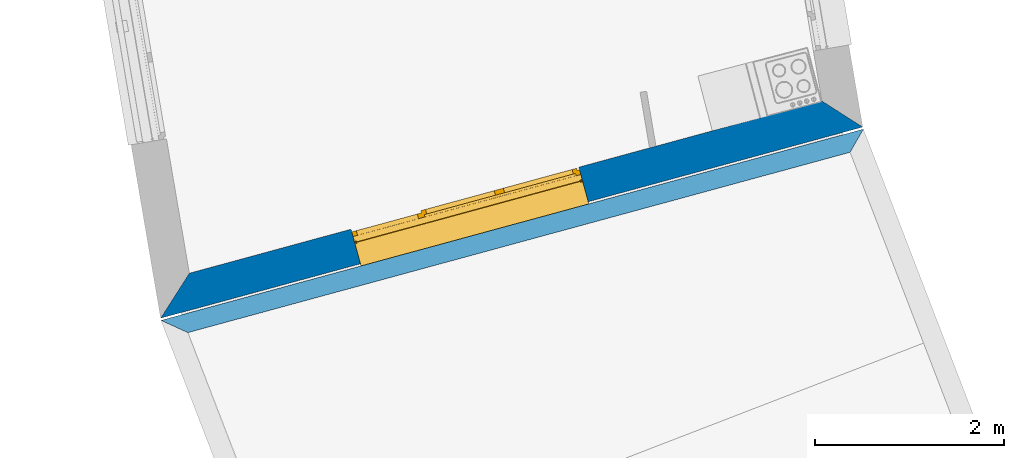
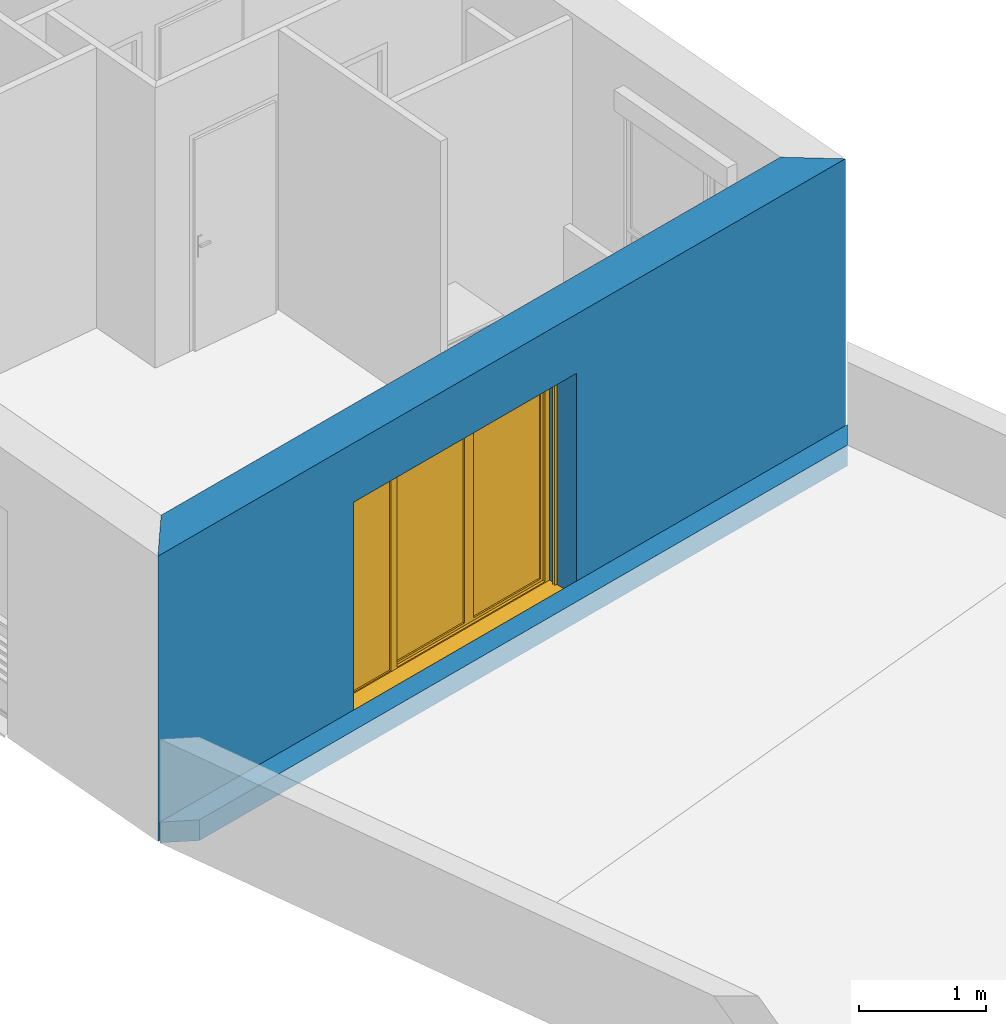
# One storey, part 70 of 121: 2 walls, 1 window, 1 opening.
"""IFC2X3 building model written with IfcOpenShell, lengths in metres."""

from ifc_helpers import new_model, entity, si_unit, converted_unit, derived_unit, money_unit, direction, frame, origin_with_axes, place, context, subcontext, project, spatial, polyline, outline, extrude, open_shell, faceted_brep, surface_model, source, transform, mapped, material, layer, layer_set, layer_usage, type_object, element, fill, save


model = new_model("IFC2X3")

# Units and contexts
model_context = context("Model", 3, precision=1e-05, world=origin_with_axes(), true_north=direction((0.0, 1.0)))
body_context = subcontext(model_context, "Body", "Model", "MODEL_VIEW")
ifc_project = project(units=[si_unit("LENGTHUNIT", "METRE"), si_unit("AREAUNIT", "SQUARE_METRE"), si_unit("VOLUMEUNIT", "CUBIC_METRE"), converted_unit("PLANEANGLEUNIT", "DEGREE", entity("IfcPlaneAngleMeasure", 0.0174532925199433), si_unit("PLANEANGLEUNIT", "RADIAN"), dimensions=[0, 0, 0, 0, 0, 0, 0]), money_unit("CHF"), converted_unit("TIMEUNIT", "Year", entity("IfcTimeMeasure", 31557600.0), si_unit("TIMEUNIT", "SECOND"), dimensions=[0, 0, 1, 0, 0, 0, 0]), si_unit("MASSUNIT", "GRAM", prefix="KILO"), si_unit("THERMODYNAMICTEMPERATUREUNIT", "DEGREE_CELSIUS"), si_unit("LUMINOUSINTENSITYUNIT", "LUMEN"), si_unit("ENERGYUNIT", "JOULE", prefix="MEGA"), derived_unit("THERMALCONDUCTANCEUNIT", [(si_unit("POWERUNIT", "WATT"), 1), (si_unit("LENGTHUNIT", "METRE"), -1), (si_unit("THERMODYNAMICTEMPERATUREUNIT", "KELVIN"), -1)]), derived_unit("SPECIFICHEATCAPACITYUNIT", [(si_unit("ENERGYUNIT", "JOULE"), 1), (si_unit("MASSUNIT", "GRAM", prefix="KILO"), -1), (si_unit("THERMODYNAMICTEMPERATUREUNIT", "KELVIN"), -1)]), derived_unit("MASSDENSITYUNIT", [(si_unit("MASSUNIT", "GRAM", prefix="KILO"), 1), (si_unit("VOLUMEUNIT", "CUBIC_METRE"), -1)])], contexts=[model_context])

# Site, building, storey
site_placement = place(None, origin_with_axes())
site = spatial("IfcSite", under=ifc_project, at=site_placement, Name="Site", CompositionType="ELEMENT")
building_placement = place(site_placement, origin_with_axes())
building = spatial("IfcBuilding", under=site, at=building_placement, Name="Bâtiment", CompositionType="ELEMENT")
storey_placement = place(building_placement, frame((0.0, 0.0, 2.75), z_axis=(0.0, 0.0, 1.0), x_axis=(1.0, 0.0, 0.0)))
storey = spatial("IfcBuildingStorey", under=building, at=storey_placement, Name="Etage 1", CompositionType="ELEMENT", Elevation=2.75)

# Wall, opening, window
ifc_material_1 = material(Name="Parpaing 312445824")
ifc_layer_1 = layer(ifc_material_1, 0.22, ventilated="UNKNOWN")
ifc_material_2 = material(Name="Isolant styromousse 301821074")
ifc_layer_2 = layer(ifc_material_2, 0.16, ventilated="UNKNOWN")
ifc_layer_set_1 = layer_set([ifc_layer_1, ifc_layer_2], Name="isol int 22+16 0836643197")
ifc_layer_usage_1 = layer_usage(ifc_layer_set_1, "AXIS2", "NEGATIVE", 0.0)
wall_type_1 = type_object("IfcWallType", Name="isol int 22+16 0836643197 380", PredefinedType="NOTDEFINED")
wall_1_placement = place(storey_placement, frame((9589.408254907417, -1033.5965492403, 57.7), z_axis=(0.0, 0.0, 1.0), x_axis=(-0.9648682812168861, -0.2627340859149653, 0.0)))
wall_1 = element("IfcWallStandardCase", 1, at=wall_1_placement, inside=storey, type_object=wall_type_1, material=ifc_layer_usage_1, Name="Mur-113", context=body_context, shape_type="SweptSolid", body=[
    extrude(outline(polyline([(0.3447130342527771, -0.3799999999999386), (7.287469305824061, -0.3799999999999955), (7.706368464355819, 0.0), (0.0, 0.0), (0.3447130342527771, -0.3799999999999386)])), origin_with_axes(), (0.0, 0.0, 1.0), 2.75),
])
opening_placement = place(wall_1_placement, frame((4.262756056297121, 0.0, 0.0), z_axis=(0.0, 0.0, 1.0), x_axis=(1.0, 0.0, 0.0)))
opening = element("IfcOpeningElement", 2, at=opening_placement, cuts=wall_1, Name="Fen-045", context=body_context, shape_type="Brep", body=[
    faceted_brep([(-1.25, -0.2999999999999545, 2.18), (-1.25, -0.2199999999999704, 2.18), (-1.25, 1.954593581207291, 2.18), (-1.25, 1.954593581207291, 0.0), (-1.25, -0.2999999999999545, 0.0), (-1.249999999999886, -0.4800000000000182, 2.18), (-1.249999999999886, -0.4800000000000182, 2.380000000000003), (-1.25, -0.2199999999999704, 2.380000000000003), (1.25, -0.2199999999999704, 2.18), (1.250000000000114, 1.954593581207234, 2.18), (1.250000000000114, 1.954593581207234, 0.0), (1.249999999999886, -0.2999999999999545, 0.0), (1.25, -2.334593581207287, 0.0), (-1.25, -2.334593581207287, 0.0), (-1.25, -2.334593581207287, 2.18), (1.250000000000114, -0.4799999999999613, 2.18), (1.250000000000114, -0.4799999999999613, 2.380000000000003), (1.25, -0.2199999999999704, 2.380000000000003), (1.249999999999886, -0.2999999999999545, 2.18), (1.25, -2.334593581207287, 2.18)], [[[0, 1, 2, 3, 4]], [[1, 0, 5, 6, 7]], [[1, 8, 9, 2]], [[9, 10, 3, 2]], [[4, 3, 10, 11, 12, 13]], [[5, 0, 4, 13, 14]], [[5, 15, 16, 6]], [[16, 17, 7, 6]], [[8, 1, 7, 17]], [[8, 18, 11, 10, 9]], [[18, 15, 19, 12, 11]], [[14, 13, 12, 19]], [[15, 5, 14, 19]], [[18, 8, 17, 16, 15]]]),
])
window_style = type_object("IfcWindowStyle", Name="Fenêtre variable 27", ConstructionType="NOTDEFINED", OperationType="TRIPLE_PANEL_VERTICAL", ParameterTakesPrecedence=False, Sizeable=False)
shared_shape = source(origin_with_axes(), body_context, "Body", "SurfaceModel", [
    surface_model("IfcShellBasedSurfaceModel", [(1.25, -0.05100000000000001, 0.05), (-1.25, -0.05100000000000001, 0.05000000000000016), (-1.25, -0.05100000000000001, 0.04000000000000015), (1.25, -0.05100000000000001, 0.04), (-1.25, -0.3799999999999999, 0.02900000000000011), (1.25, -0.3799999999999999, 0.02899999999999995), (-1.25, -0.3799999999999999, 0.009000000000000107), (1.25, -0.3799999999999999, 0.008999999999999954), (-1.25, -0.3699999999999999, 0.01900000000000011), (1.25, -0.3699999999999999, 0.01899999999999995)], [open_shell([[[0, 1, 2, 3]], [[3, 2, 4, 5]], [[5, 4, 6, 7]], [[7, 6, 8, 9]]])]),
    faceted_brep([(1.25, -0.1300000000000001, 2.38), (1.25, 0.1299999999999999, 2.38), (1.247, 0.1299999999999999, 2.38), (1.247, -0.1300000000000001, 2.38), (1.25, -0.1300000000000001, 2.18), (1.25, 0.1299999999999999, 2.18), (1.247, 0.1299999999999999, 2.18), (1.247, -0.1300000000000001, 2.18)], [[[0, 1, 2, 3]], [[0, 4, 5, 1]], [[1, 5, 6, 2]], [[3, 2, 6, 7]], [[4, 0, 3, 7]], [[5, 4, 7, 6]]]),
    faceted_brep([(-1.247, -0.1299999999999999, 2.38), (-1.247, 0.1300000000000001, 2.38), (-1.25, 0.1300000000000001, 2.38), (-1.25, -0.1299999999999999, 2.38), (-1.247, -0.1299999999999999, 2.18), (-1.247, 0.1300000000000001, 2.18), (-1.25, 0.1300000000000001, 2.18), (-1.25, -0.1299999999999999, 2.18)], [[[0, 1, 2, 3]], [[0, 4, 5, 1]], [[1, 5, 6, 2]], [[3, 2, 6, 7]], [[4, 0, 3, 7]], [[5, 4, 7, 6]]]),
    faceted_brep([(1.247, -0.1300000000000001, 2.18), (1.247, -0.1300000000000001, 2.38), (-1.247, -0.1299999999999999, 2.38), (-1.247, -0.1299999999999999, 2.18), (1.247, -0.1270000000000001, 2.18), (1.247, -0.1270000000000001, 2.377), (1.247, 0.1269999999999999, 2.377), (1.247, 0.1269999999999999, 2.183), (1.247, -0.1080000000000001, 2.183), (1.247, -0.1080000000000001, 2.18), (1.247, 0.1299999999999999, 2.18), (1.247, 0.1299999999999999, 2.38), (-1.247, 0.1300000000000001, 2.38), (-1.247, 0.1300000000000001, 2.18), (-1.247, -0.1079999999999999, 2.18), (-1.247, -0.1079999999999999, 2.183), (-1.247, 0.1270000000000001, 2.183), (-1.247, 0.1270000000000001, 2.377), (-1.247, -0.1269999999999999, 2.377), (-1.247, -0.1269999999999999, 2.18)], [[[0, 1, 2, 3]], [[0, 4, 5, 6, 7, 8, 9, 10, 11, 1]], [[1, 11, 12, 2]], [[3, 2, 12, 13, 14, 15, 16, 17, 18, 19]], [[4, 0, 3, 19]], [[5, 4, 19, 18]], [[6, 5, 18, 17]], [[7, 6, 17, 16]], [[8, 7, 16, 15]], [[9, 8, 15, 14]], [[10, 9, 14, 13]], [[11, 10, 13, 12]]]),
    faceted_brep([(1.244, -0.08075423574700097, 2.265760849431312), (1.244, -0.07705479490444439, 2.251954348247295), (1.244, -0.07101408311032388, 2.239), (1.244, -0.06281564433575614, 2.227291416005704), (1.244, -0.05270858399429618, 2.217184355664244), (1.244, -0.04099999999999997, 2.208985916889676), (1.244, -0.02804565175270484, 2.202945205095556), (1.244, -0.01423915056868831, 2.199245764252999), (1.244, 0.0, 2.198), (1.244, 0.01423915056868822, 2.199245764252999), (1.244, 0.02804565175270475, 2.202945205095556), (1.244, 0.0409999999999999, 2.208985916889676), (1.244, 0.05270858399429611, 2.217184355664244), (1.244, 0.06281564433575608, 2.227291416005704), (1.244, 0.07101408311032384, 2.239), (1.244, 0.07705479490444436, 2.251954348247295), (1.244, 0.08075423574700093, 2.265760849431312), (1.244, 0.08199999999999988, 2.28), (1.244, 0.08075423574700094, 2.294239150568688), (1.244, 0.07705479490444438, 2.308045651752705), (1.244, 0.07101408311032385, 2.321), (1.244, 0.0628156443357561, 2.332708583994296), (1.244, 0.05270858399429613, 2.342815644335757), (1.244, 0.04099999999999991, 2.351014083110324), (1.244, 0.02804565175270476, 2.357054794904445), (1.244, 0.01423915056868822, 2.360754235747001), (1.244, 0.0, 2.362), (1.244, -0.01423915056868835, 2.360754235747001), (1.244, -0.0280456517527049, 2.357054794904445), (1.244, -0.04100000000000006, 2.351014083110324), (1.244, -0.05270858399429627, 2.342815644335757), (1.244, -0.06281564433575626, 2.332708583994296), (1.244, -0.07101408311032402, 2.321), (1.244, -0.07705479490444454, 2.308045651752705), (1.244, -0.08075423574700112, 2.294239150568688), (1.244, -0.08200000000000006, 2.28), (-1.244, -0.08075423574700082, 2.265760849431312), (-1.244, -0.07705479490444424, 2.251954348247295), (-1.244, -0.07101408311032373, 2.239), (-1.244, -0.06281564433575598, 2.227291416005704), (-1.244, -0.05270858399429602, 2.217184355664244), (-1.244, -0.04099999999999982, 2.208985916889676), (-1.244, -0.02804565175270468, 2.202945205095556), (-1.244, -0.01423915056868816, 2.199245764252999), (-1.244, 0.0, 2.198), (-1.244, 0.01423915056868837, 2.199245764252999), (-1.244, 0.02804565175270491, 2.202945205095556), (-1.244, 0.04100000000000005, 2.208985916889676), (-1.244, 0.05270858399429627, 2.217184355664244), (-1.244, 0.06281564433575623, 2.227291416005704), (-1.244, 0.07101408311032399, 2.239), (-1.244, 0.07705479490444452, 2.251954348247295), (-1.244, 0.08075423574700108, 2.265760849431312), (-1.244, 0.08200000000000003, 2.28), (-1.244, 0.0807542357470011, 2.294239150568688), (-1.244, 0.07705479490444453, 2.308045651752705), (-1.244, 0.071014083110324, 2.321), (-1.244, 0.06281564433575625, 2.332708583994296), (-1.244, 0.05270858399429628, 2.342815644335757), (-1.244, 0.04100000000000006, 2.351014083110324), (-1.244, 0.02804565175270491, 2.357054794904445), (-1.244, 0.01423915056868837, 2.360754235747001), (-1.244, 0.0, 2.362), (-1.244, -0.0142391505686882, 2.360754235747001), (-1.244, -0.02804565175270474, 2.357054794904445), (-1.244, -0.0409999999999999, 2.351014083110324), (-1.244, -0.05270858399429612, 2.342815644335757), (-1.244, -0.06281564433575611, 2.332708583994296), (-1.244, -0.07101408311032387, 2.321), (-1.244, -0.07705479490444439, 2.308045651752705), (-1.244, -0.08075423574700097, 2.294239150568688), (-1.244, -0.0819999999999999, 2.28)], [[[0, 1, 2, 3, 4, 5, 6, 7, 8, 9, 10, 11, 12, 13, 14, 15, 16, 17, 18, 19, 20, 21, 22, 23, 24, 25, 26, 27, 28, 29, 30, 31, 32, 33, 34, 35]], [[1, 0, 36, 37]], [[2, 1, 37, 38]], [[3, 2, 38, 39]], [[4, 3, 39, 40]], [[5, 4, 40, 41]], [[6, 5, 41, 42]], [[7, 6, 42, 43]], [[8, 7, 43, 44]], [[9, 8, 44, 45]], [[10, 9, 45, 46]], [[11, 10, 46, 47]], [[12, 11, 47, 48]], [[13, 12, 48, 49]], [[14, 13, 49, 50]], [[15, 14, 50, 51]], [[16, 15, 51, 52]], [[17, 16, 52, 53]], [[18, 17, 53, 54]], [[19, 18, 54, 55]], [[20, 19, 55, 56]], [[21, 20, 56, 57]], [[22, 21, 57, 58]], [[23, 22, 58, 59]], [[24, 23, 59, 60]], [[25, 24, 60, 61]], [[26, 25, 61, 62]], [[27, 26, 62, 63]], [[28, 27, 63, 64]], [[29, 28, 64, 65]], [[30, 29, 65, 66]], [[31, 30, 66, 67]], [[32, 31, 67, 68]], [[33, 32, 68, 69]], [[34, 33, 69, 70]], [[35, 34, 70, 71]], [[0, 35, 71, 36]], [[36, 71, 70, 69, 68, 67, 66, 65, 64, 63, 62, 61, 60, 59, 58, 57, 56, 55, 54, 53, 52, 51, 50, 49, 48, 47, 46, 45, 44, 43, 42, 41, 40, 39, 38, 37]]]),
    faceted_brep([(-1.25, -0.105, 0.03), (-1.25, -0.13, 0.03), (-1.25, -0.1299999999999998, 2.18), (-1.25, -0.1049999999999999, 2.18), (-1.225, -0.105, 0.03), (-1.225, -0.108, 0.03), (-1.247, -0.108, 0.03), (-1.247, -0.127, 0.03), (-1.225, -0.127, 0.03), (-1.225, -0.13, 0.03), (-1.225, -0.1299999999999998, 2.18), (-1.225, -0.1269999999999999, 2.18), (-1.247, -0.1269999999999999, 2.18), (-1.247, -0.1079999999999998, 2.18), (-1.225, -0.1079999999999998, 2.18), (-1.225, -0.1049999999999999, 2.18)], [[[0, 1, 2, 3]], [[0, 4, 5, 6, 7, 8, 9, 1]], [[1, 9, 10, 2]], [[3, 2, 10, 11, 12, 13, 14, 15]], [[4, 0, 3, 15]], [[5, 4, 15, 14]], [[6, 5, 14, 13]], [[7, 6, 13, 12]], [[8, 7, 12, 11]], [[9, 8, 11, 10]]]),
    faceted_brep([(1.25, -0.105, 0.03), (1.25, -0.1049999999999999, 2.18), (1.25, -0.1299999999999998, 2.18), (1.25, -0.13, 0.03), (1.225, -0.105, 0.03), (1.225, -0.1049999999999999, 2.18), (1.225, -0.1079999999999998, 2.18), (1.247, -0.1079999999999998, 2.18), (1.247, -0.1269999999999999, 2.18), (1.225, -0.1269999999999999, 2.18), (1.225, -0.1299999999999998, 2.18), (1.225, -0.13, 0.03), (1.225, -0.127, 0.03), (1.247, -0.127, 0.03), (1.247, -0.108, 0.03), (1.225, -0.108, 0.03)], [[[0, 1, 2, 3]], [[4, 5, 1, 0]], [[1, 5, 6, 7, 8, 9, 10, 2]], [[3, 2, 10, 11]], [[0, 3, 11, 12, 13, 14, 15, 4]], [[15, 6, 5, 4]], [[14, 7, 6, 15]], [[13, 8, 7, 14]], [[12, 9, 8, 13]], [[11, 10, 9, 12]]]),
    surface_model("IfcShellBasedSurfaceModel", [(1.247, -0.115, 2.28), (-1.247, -0.1149999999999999, 2.28), (-1.247, -0.1199999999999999, 2.28), (1.247, -0.1200000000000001, 2.28), (1.247, -0.115, 2.28), (1.247, -0.1200000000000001, 2.28), (-1.247, -0.1199999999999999, 2.28), (-1.247, -0.1149999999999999, 2.28)], [open_shell([[[0, 1, 2, 3]], [[4, 5, 6, 7]]])]),
    faceted_brep([(1.247, -0.115, 2.28), (1.247, -0.1166666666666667, 2.263333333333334), (-1.247, -0.1166666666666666, 2.263333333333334), (-1.247, -0.1149999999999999, 2.28), (1.247, -0.1200000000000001, 2.28), (1.247, -0.1216666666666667, 2.263333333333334), (1.247, -0.1216666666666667, 2.246666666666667), (1.247, -0.1200000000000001, 2.23), (1.247, -0.115, 2.23), (1.247, -0.1166666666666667, 2.246666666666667), (-1.247, -0.1166666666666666, 2.246666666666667), (-1.247, -0.1149999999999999, 2.23), (-1.247, -0.1199999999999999, 2.23), (-1.247, -0.1216666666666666, 2.246666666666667), (-1.247, -0.1216666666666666, 2.263333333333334), (-1.247, -0.1199999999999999, 2.28)], [[[0, 1, 2, 3]], [[0, 4, 5, 6, 7, 8, 9, 1]], [[1, 9, 10, 2]], [[3, 2, 10, 11, 12, 13, 14, 15]], [[4, 0, 3, 15]], [[5, 4, 15, 14]], [[6, 5, 14, 13]], [[7, 6, 13, 12]], [[8, 7, 12, 11]], [[9, 8, 11, 10]]]),
    faceted_brep([(1.247, -0.115, 2.23), (1.247, -0.1166666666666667, 2.213333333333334), (-1.247, -0.1166666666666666, 2.213333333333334), (-1.247, -0.1149999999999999, 2.23), (1.247, -0.1200000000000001, 2.23), (1.247, -0.1216666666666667, 2.213333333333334), (1.247, -0.1216666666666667, 2.196666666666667), (1.247, -0.1200000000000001, 2.180000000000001), (1.247, -0.115, 2.180000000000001), (1.247, -0.1166666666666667, 2.196666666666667), (-1.247, -0.1166666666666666, 2.196666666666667), (-1.247, -0.1149999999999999, 2.180000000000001), (-1.247, -0.1199999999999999, 2.180000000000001), (-1.247, -0.1216666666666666, 2.196666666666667), (-1.247, -0.1216666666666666, 2.213333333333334), (-1.247, -0.1199999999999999, 2.23)], [[[0, 1, 2, 3]], [[0, 4, 5, 6, 7, 8, 9, 1]], [[1, 9, 10, 2]], [[3, 2, 10, 11, 12, 13, 14, 15]], [[4, 0, 3, 15]], [[5, 4, 15, 14]], [[6, 5, 14, 13]], [[7, 6, 13, 12]], [[8, 7, 12, 11]], [[9, 8, 11, 10]]]),
    faceted_brep([(1.225, 0.0, 2.13), (1.225, -0.02500000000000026, 2.13), (1.2, -0.02500000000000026, 2.13), (1.2, -0.05000000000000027, 2.13), (1.25, -0.05000000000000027, 2.13), (1.25, 0.0, 2.13), (1.225, 0.0, 0.05000000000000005), (1.225, -0.02500000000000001, 0.05000000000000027), (1.2, -0.02500000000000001, 0.05000000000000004), (1.2, -0.05000000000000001, 0.05000000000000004), (1.25, -0.05000000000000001, 0.05000000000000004), (1.25, 0.0, 0.05000000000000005)], [[[0, 1, 2, 3, 4, 5]], [[1, 0, 6, 7]], [[8, 2, 1, 7]], [[2, 8, 9, 3]], [[4, 3, 9, 10]], [[5, 4, 10, 11]], [[6, 0, 5, 11]], [[7, 6, 11, 10, 9, 8]]]),
    faceted_brep([(-0.4600000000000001, -0.02500000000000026, 2.13), (-0.4850000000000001, -0.02500000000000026, 2.13), (-0.4850000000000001, 0.0, 2.13), (-0.5300000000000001, 0.0, 2.13), (-0.5300000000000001, -0.05000000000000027, 2.13), (-0.4600000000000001, -0.05000000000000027, 2.13), (-0.4600000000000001, -0.02500000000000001, 0.05000000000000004), (-0.4850000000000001, -0.02500000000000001, 0.05000000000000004), (-0.4850000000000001, 0.0, 0.05000000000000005), (-0.5300000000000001, 0.0, 0.05000000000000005), (-0.5300000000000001, -0.05000000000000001, 0.05000000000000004), (-0.4600000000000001, -0.05000000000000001, 0.05000000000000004)], [[[0, 1, 2, 3, 4, 5]], [[1, 0, 6, 7]], [[8, 2, 1, 7]], [[2, 8, 9, 3]], [[9, 10, 4, 3]], [[10, 11, 5, 4]], [[6, 0, 5, 11]], [[7, 6, 11, 10, 9, 8]]]),
    faceted_brep([(-0.4600000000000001, -0.02500000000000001, 0.05000000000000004), (-0.4850000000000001, -0.02500000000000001, 0.05000000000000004), (-0.4850000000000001, 0.0, 0.05000000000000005), (-0.5300000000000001, 0.0, 0.05000000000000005), (-0.5300000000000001, -0.05000000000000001, 0.05000000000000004), (-0.4600000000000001, -0.05000000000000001, 0.05000000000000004), (1.2, -0.02500000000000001, 0.05000000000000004), (1.225, -0.02500000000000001, 0.05000000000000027), (1.225, -0.025, 0.02499999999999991), (-0.4850000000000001, -0.025, 0.02499999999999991), (-0.4850000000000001, 0.0, 0.02499999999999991), (1.225, 0.0, 0.02499999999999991), (1.225, 0.0, 0.05000000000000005), (1.25, 0.0, 0.05000000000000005), (1.25, 0.0, 0.0), (-1.25, 0.0, 0.0), (-1.25, 0.0, 0.05000000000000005), (-1.2, 0.0, 0.05000000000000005), (-1.2, -0.05000000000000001, 0.05000000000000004), (1.25, -0.05000000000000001, 0.05000000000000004), (1.2, -0.05000000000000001, 0.05000000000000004), (-1.25, -0.05000000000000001, 0.05000000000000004), (-1.25, -0.05, 0.0), (1.25, -0.05, 0.0)], [[[0, 1, 2, 3, 4, 5]], [[1, 0, 6, 7, 8, 9]], [[10, 2, 1, 9]], [[11, 12, 13, 14, 15, 16, 17, 3, 2, 10]], [[17, 18, 4, 3]], [[19, 20, 5, 4, 18, 21, 22, 23]], [[6, 0, 5, 20]], [[7, 6, 20, 19, 13, 12]], [[7, 12, 11, 8]], [[11, 10, 9, 8]], [[13, 19, 23, 14]], [[14, 23, 22, 15]], [[15, 22, 21, 16]], [[16, 21, 18, 17]]]),
    faceted_brep([(1.225, 0.0, 2.13), (1.225, 0.0, 2.155), (-0.4850000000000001, 0.0, 2.155), (-0.4850000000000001, 0.0, 2.13), (-0.5300000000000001, 0.0, 2.13), (-1.2, 0.0, 2.13), (-1.25, 0.0, 2.13), (-1.25, 0.0, 2.18), (1.25, 0.0, 2.18), (1.25, 0.0, 2.13), (1.225, -0.02500000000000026, 2.13), (1.225, -0.02500000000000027, 2.155), (-0.4850000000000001, -0.02500000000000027, 2.155), (-0.4850000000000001, -0.02500000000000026, 2.13), (-0.4600000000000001, -0.02500000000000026, 2.13), (-0.4600000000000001, -0.05000000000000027, 2.13), (-0.5300000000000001, -0.05000000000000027, 2.13), (-1.2, -0.05000000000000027, 2.13), (-1.25, -0.05000000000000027, 2.13), (-1.25, -0.05000000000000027, 2.18), (1.25, -0.05000000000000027, 2.18), (1.25, -0.05000000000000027, 2.13), (1.2, -0.05000000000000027, 2.13), (1.2, -0.02500000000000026, 2.13)], [[[0, 1, 2, 3, 4, 5, 6, 7, 8, 9]], [[1, 0, 10, 11]], [[2, 1, 11, 12]], [[3, 2, 12, 13]], [[13, 14, 15, 16, 4, 3]], [[4, 16, 17, 5]], [[5, 17, 18, 6]], [[6, 18, 19, 7]], [[7, 19, 20, 8]], [[8, 20, 21, 9]], [[10, 0, 9, 21, 22, 23]], [[14, 13, 12, 11, 10, 23]], [[14, 23, 22, 15]], [[16, 15, 22, 21, 20, 19, 18, 17]]]),
    faceted_brep([(-1.2, -0.05000000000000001, 0.05), (-1.25, -0.05000000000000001, 0.05), (-1.25, 0.0, 0.05000000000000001), (-1.2, 0.0, 0.05000000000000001), (-1.2, -0.05000000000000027, 2.13), (-1.25, -0.05000000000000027, 2.13), (-1.25, 0.0, 2.13), (-1.2, 0.0, 2.13)], [[[0, 1, 2, 3]], [[0, 4, 5, 1]], [[1, 5, 6, 2]], [[3, 2, 6, 7]], [[4, 0, 3, 7]], [[5, 4, 7, 6]]]),
    faceted_brep([(0.3199999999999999, -0.02500000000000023, 2.105), (0.3699999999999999, -0.02500000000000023, 2.105), (0.3699999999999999, 0.02499999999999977, 2.105), (0.3199999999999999, 0.02499999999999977, 2.105), (0.3199999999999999, -0.02499999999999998, 0.07500000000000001), (0.3699999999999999, -0.02499999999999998, 0.07500000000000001), (0.3699999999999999, 0.02500000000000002, 0.07500000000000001), (0.3199999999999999, 0.02500000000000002, 0.07500000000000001)], [[[0, 1, 2, 3]], [[0, 4, 5, 1]], [[1, 5, 6, 2]], [[3, 2, 6, 7]], [[4, 0, 3, 7]], [[5, 4, 7, 6]]]),
    faceted_brep([(-0.4350000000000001, -0.02500000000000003, 0.07500000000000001), (-0.4850000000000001, -0.02500000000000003, 0.07500000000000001), (-0.4850000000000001, 0.02499999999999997, 0.07500000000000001), (-0.4350000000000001, 0.02499999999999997, 0.07500000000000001), (-0.4350000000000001, -0.02500000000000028, 2.105), (-0.4850000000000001, -0.02500000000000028, 2.105), (-0.4850000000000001, 0.02499999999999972, 2.105), (-0.4350000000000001, 0.02499999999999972, 2.105)], [[[0, 1, 2, 3]], [[0, 4, 5, 1]], [[1, 5, 6, 2]], [[3, 2, 6, 7]], [[4, 0, 3, 7]], [[5, 4, 7, 6]]]),
    faceted_brep([(-0.4850000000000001, -0.02500000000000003, 0.025), (-0.4850000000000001, -0.02500000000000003, 0.07500000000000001), (-0.4850000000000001, 0.02499999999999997, 0.07500000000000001), (-0.4850000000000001, 0.02499999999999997, 0.02500000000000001), (0.3699999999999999, -0.02499999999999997, 0.025), (0.3699999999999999, -0.02499999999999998, 0.07500000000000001), (0.3199999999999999, -0.02499999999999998, 0.07500000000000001), (-0.4350000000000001, -0.02500000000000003, 0.07500000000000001), (-0.4350000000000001, 0.02499999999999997, 0.07500000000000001), (0.3199999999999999, 0.02500000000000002, 0.07500000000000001), (0.3699999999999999, 0.02500000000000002, 0.07500000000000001), (0.3699999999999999, 0.02500000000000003, 0.02500000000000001)], [[[0, 1, 2, 3]], [[0, 4, 5, 6, 7, 1]], [[1, 7, 8, 2]], [[3, 2, 8, 9, 10, 11]], [[4, 0, 3, 11]], [[5, 4, 11, 10]], [[6, 5, 10, 9]], [[7, 6, 9, 8]]]),
    faceted_brep([(0.3699999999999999, -0.02500000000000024, 2.155), (0.3699999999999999, -0.02500000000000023, 2.105), (0.3699999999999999, 0.02499999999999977, 2.105), (0.3699999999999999, 0.02499999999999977, 2.155), (-0.4850000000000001, -0.02500000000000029, 2.155), (-0.4850000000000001, -0.02500000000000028, 2.105), (-0.4350000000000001, -0.02500000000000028, 2.105), (0.3199999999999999, -0.02500000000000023, 2.105), (0.3199999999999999, 0.02499999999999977, 2.105), (-0.4350000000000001, 0.02499999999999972, 2.105), (-0.4850000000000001, 0.02499999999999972, 2.105), (-0.4850000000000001, 0.02499999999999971, 2.155)], [[[0, 1, 2, 3]], [[0, 4, 5, 6, 7, 1]], [[1, 7, 8, 2]], [[3, 2, 8, 9, 10, 11]], [[4, 0, 3, 11]], [[5, 4, 11, 10]], [[6, 5, 10, 9]], [[7, 6, 9, 8]]]),
    surface_model("IfcShellBasedSurfaceModel", [(0.3199999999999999, -0.01000000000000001, 0.07500000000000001), (0.3199999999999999, -0.01000000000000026, 2.105), (-0.4350000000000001, -0.01000000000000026, 2.105), (-0.4350000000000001, -0.01000000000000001, 0.07500000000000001)], [open_shell([[[0, 1, 2, 3]]])]),
    surface_model("IfcShellBasedSurfaceModel", [(0.3199999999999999, 0.009999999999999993, 0.07500000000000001), (-0.4350000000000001, 0.009999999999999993, 0.07500000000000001), (-0.4350000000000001, 0.009999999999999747, 2.105), (0.3199999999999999, 0.009999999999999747, 2.105)], [open_shell([[[0, 1, 2, 3]]])]),
    faceted_brep([(1.175, -0.02500000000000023, 2.105), (1.225, -0.02500000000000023, 2.105), (1.225, 0.02499999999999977, 2.105), (1.175, 0.02499999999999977, 2.105), (1.175, -0.02499999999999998, 0.07500000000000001), (1.225, -0.02499999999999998, 0.07500000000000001), (1.225, 0.02500000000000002, 0.07500000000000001), (1.175, 0.02500000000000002, 0.07500000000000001)], [[[0, 1, 2, 3]], [[0, 4, 5, 1]], [[1, 5, 6, 2]], [[3, 2, 6, 7]], [[4, 0, 3, 7]], [[5, 4, 7, 6]]]),
    faceted_brep([(0.4199999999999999, -0.02500000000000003, 0.07500000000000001), (0.3699999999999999, -0.02500000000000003, 0.07500000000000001), (0.3699999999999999, 0.02499999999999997, 0.07500000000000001), (0.4199999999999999, 0.02499999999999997, 0.07500000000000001), (0.4199999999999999, -0.02500000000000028, 2.105), (0.3699999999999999, -0.02500000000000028, 2.105), (0.3699999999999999, 0.02499999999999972, 2.105), (0.4199999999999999, 0.02499999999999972, 2.105)], [[[0, 1, 2, 3]], [[0, 4, 5, 1]], [[1, 5, 6, 2]], [[3, 2, 6, 7]], [[4, 0, 3, 7]], [[5, 4, 7, 6]]]),
    faceted_brep([(0.3699999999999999, -0.02500000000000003, 0.025), (0.3699999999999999, -0.02500000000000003, 0.07500000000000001), (0.3699999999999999, 0.02499999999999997, 0.07500000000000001), (0.3699999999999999, 0.02499999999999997, 0.02500000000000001), (1.225, -0.02499999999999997, 0.025), (1.225, -0.02499999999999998, 0.07500000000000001), (1.175, -0.02499999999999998, 0.07500000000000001), (0.4199999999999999, -0.02500000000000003, 0.07500000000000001), (0.4199999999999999, 0.02499999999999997, 0.07500000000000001), (1.175, 0.02500000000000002, 0.07500000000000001), (1.225, 0.02500000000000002, 0.07500000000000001), (1.225, 0.02500000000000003, 0.02500000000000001)], [[[0, 1, 2, 3]], [[0, 4, 5, 6, 7, 1]], [[1, 7, 8, 2]], [[3, 2, 8, 9, 10, 11]], [[4, 0, 3, 11]], [[5, 4, 11, 10]], [[6, 5, 10, 9]], [[7, 6, 9, 8]]]),
    faceted_brep([(1.225, -0.02500000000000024, 2.155), (1.225, -0.02500000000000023, 2.105), (1.225, 0.02499999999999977, 2.105), (1.225, 0.02499999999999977, 2.155), (0.3699999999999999, -0.02500000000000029, 2.155), (0.3699999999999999, -0.02500000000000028, 2.105), (0.4199999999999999, -0.02500000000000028, 2.105), (1.175, -0.02500000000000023, 2.105), (1.175, 0.02499999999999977, 2.105), (0.4199999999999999, 0.02499999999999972, 2.105), (0.3699999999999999, 0.02499999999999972, 2.105), (0.3699999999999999, 0.02499999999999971, 2.155)], [[[0, 1, 2, 3]], [[0, 4, 5, 6, 7, 1]], [[1, 7, 8, 2]], [[3, 2, 8, 9, 10, 11]], [[4, 0, 3, 11]], [[5, 4, 11, 10]], [[6, 5, 10, 9]], [[7, 6, 9, 8]]]),
    surface_model("IfcShellBasedSurfaceModel", [(1.175, -0.01000000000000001, 0.07500000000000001), (1.175, -0.01000000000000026, 2.105), (0.4199999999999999, -0.01000000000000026, 2.105), (0.4199999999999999, -0.01000000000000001, 0.07500000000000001)], [open_shell([[[0, 1, 2, 3]]])]),
    surface_model("IfcShellBasedSurfaceModel", [(1.175, 0.009999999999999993, 0.07500000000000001), (0.4199999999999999, 0.009999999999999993, 0.07500000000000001), (0.4199999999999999, 0.009999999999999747, 2.105), (1.175, 0.009999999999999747, 2.105)], [open_shell([[[0, 1, 2, 3]]])]),
    surface_model("IfcShellBasedSurfaceModel", [(-0.5300000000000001, -0.035, 0.05), (-0.5300000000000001, -0.03500000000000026, 2.13), (-1.2, -0.03500000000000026, 2.13), (-1.2, -0.035, 0.05)], [open_shell([[[0, 1, 2, 3]]])]),
    surface_model("IfcShellBasedSurfaceModel", [(-0.5300000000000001, -0.015, 0.05), (-1.2, -0.015, 0.05), (-1.2, -0.01500000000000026, 2.13), (-0.5300000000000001, -0.01500000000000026, 2.13)], [open_shell([[[0, 1, 2, 3]]])]),
])
window_placement = place(opening_placement, frame((1.250000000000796, 0.0, 0.0), z_axis=(0.0, 0.0, 1.0), x_axis=(-1.0, 0.0, 0.0)))
window = element("IfcWindow", 3, at=window_placement, inside=storey, type_object=window_style, Name="Fen-045", OverallHeight=2.18, OverallWidth=2.5, context=body_context, shape_type="MappedRepresentation", body=[
    mapped(shared_shape, transform((1.249999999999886, 0.3500000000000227, 0.0))),
])
fill(opening, window)

# Wall
ifc_material_3 = material(Name="Empty Fill 292498448")
ifc_layer_3 = layer(ifc_material_3, 0.2, ventilated="UNKNOWN")
ifc_layer_set_2 = layer_set([ifc_layer_3], Name="acrotère 20")
ifc_layer_usage_2 = layer_usage(ifc_layer_set_2, "AXIS2", "POSITIVE", 0.0)
wall_type_2 = type_object("IfcWallType", Name="acrotère 20 200", PredefinedType="NOTDEFINED")
wall_2_placement = place(storey_placement, frame((9589.41527848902, -1033.618668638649, 57.7), z_axis=(0.0, 0.0, 1.0), x_axis=(-0.9648682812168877, -0.2627340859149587, 0.0)))
element("IfcWallStandardCase", 4, at=wall_2_placement, inside=storey, type_object=wall_type_2, material=ifc_layer_usage_2, Name="Mur-112", context=body_context, shape_type="SweptSolid", body=[
    extrude(outline(polyline([(0.0, 0.0), (7.709597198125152, 0.0), (7.468087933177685, 0.1999999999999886), (0.2007672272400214, 0.1999999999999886), (0.0, 0.0)])), origin_with_axes(), (0.0, 0.0, 1.0), 0.2),
])

save(model, "model.ifc")
